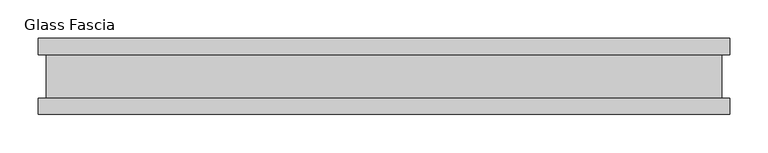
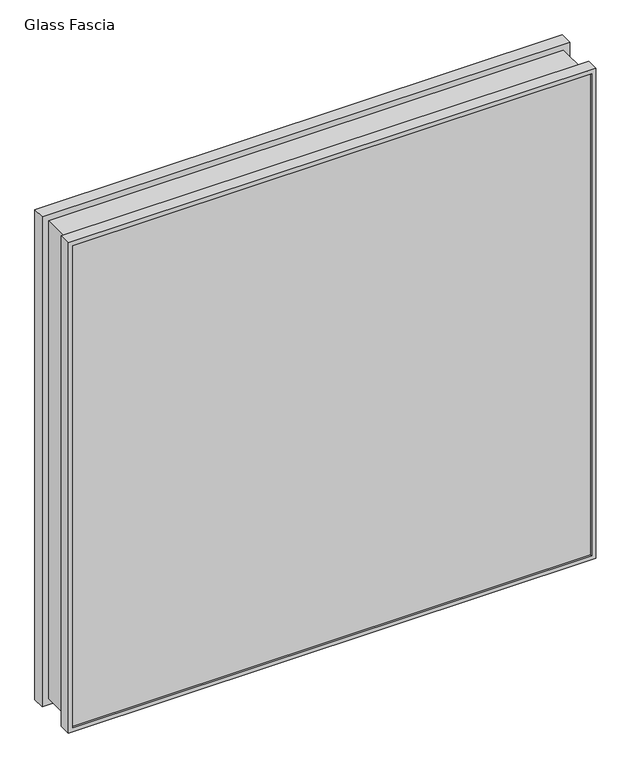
"""IFC4 building model written with IfcOpenShell, lengths in millimetres: proxy geometry, Panel-Fascia-Teknion-Altos-Glass : Glass Fascia."""

import ifcopenshell
import ifcopenshell.guid

model = None  # the IFC model being written
_history = None  # IfcOwnerHistory: only IFC2X3 demands one
_inside = {}  # id of a spatial element -> (the spatial element, [elements in it])
_under = {}  # id of a project, library or spatial element -> (it, [spatial elements below it])
_declared = {}  # id of a project -> (the project, [libraries it declares])
_typed = {}  # id of a type object -> (the type object, [elements of that type])
_made_of = {}  # id of a material, layer set ... -> (it, [elements and type objects made of it])


def new_model(schema):
    """Start an empty IFC model of exactly this schema.

    Asked for "IFC4X3", IfcOpenShell would pick the latest addendum, in which some entities
    have other attributes; the version numbers below select the first issue.
    IFC2X3 requires an IfcOwnerHistory on every rooted entity: one is made here for all.
    """
    global model, _history
    if schema == "IFC4X3":
        model = ifcopenshell.file(schema_version=(4, 3, 0, 0))
    else:
        model = ifcopenshell.file(schema=schema)
    _inside.clear()
    _under.clear()
    _declared.clear()
    _typed.clear()
    _made_of.clear()
    _history = None
    if model.schema == "IFC2X3":
        org = make("IfcOrganization", Name="unknown")
        user = make(
            "IfcPersonAndOrganization",
            ThePerson=make("IfcPerson", FamilyName="unknown"),
            TheOrganization=org,
        )
        app = make(
            "IfcApplication",
            ApplicationDeveloper=org,
            Version="unknown",
            ApplicationFullName="unknown",
            ApplicationIdentifier="unknown",
        )
        _history = make(
            "IfcOwnerHistory",
            OwningUser=user,
            OwningApplication=app,
            ChangeAction="ADDED",
            CreationDate=0,
        )
    return model


def make(cls, **values):
    """One entity of the class cls with the attributes given. An attribute that is None is left unset."""
    return model.create_entity(
        cls, **{name: value for name, value in values.items() if value is not None}
    )


def rooted(cls, **values):
    """An entity with a GlobalId (a new one), such as an element, a storey or a relation."""
    return make(cls, GlobalId=ifcopenshell.guid.new(), OwnerHistory=_history, **values)


def si_unit(unit_type, name, prefix=None):
    """IfcSIUnit, for example si_unit("LENGTHUNIT", "METRE", prefix="MILLI")."""
    return make("IfcSIUnit", UnitType=unit_type, Prefix=prefix, Name=name)


def assignment(units):
    """IfcUnitAssignment: the units of a project."""
    return None if units is None else make("IfcUnitAssignment", Units=units)


def point(xyz):
    """IfcCartesianPoint."""
    return None if xyz is None else make("IfcCartesianPoint", Coordinates=xyz)


def direction(xyz):
    """IfcDirection."""
    return None if xyz is None else make("IfcDirection", DirectionRatios=xyz)


def frame(location, z_axis=None, x_axis=None):
    """IfcAxis2Placement3D, a coordinate frame: its origin and axes. An axis left out is left unset."""
    return make(
        "IfcAxis2Placement3D",
        Location=point(location),
        Axis=direction(z_axis),
        RefDirection=direction(x_axis),
    )


def origin():
    """The frame at (0, 0, 0) with its axes left unset."""
    return frame((0.0, 0.0, 0.0))


def place(relative_to, where):
    """IfcLocalPlacement: puts the frame where relative to a parent placement (None: the world)."""
    return make(
        "IfcLocalPlacement", PlacementRelTo=relative_to, RelativePlacement=where
    )


def context(
    kind, dimensions, precision=None, world=None, true_north=None, identifier=None
):
    """IfcGeometricRepresentationContext, for example the 3D "Model" context."""
    return make(
        "IfcGeometricRepresentationContext",
        ContextIdentifier=identifier,
        ContextType=kind,
        CoordinateSpaceDimension=dimensions,
        Precision=precision,
        WorldCoordinateSystem=world,
        TrueNorth=true_north,
    )


def project(units=None, contexts=None):
    """IfcProject with its units and contexts."""
    return rooted(
        "IfcProject",
        Name="project",
        RepresentationContexts=contexts,
        UnitsInContext=assignment(units),
    )


def spatial(cls, under=None, at=None, **own):
    """A site, building, storey or space (cls), placed at a placement, below another one or the project."""
    s = rooted(cls, ObjectPlacement=at, **own)
    if under is not None:
        _under.setdefault(under.id(), (under, []))[1].append(s)
    return s


def polyline(points):
    """IfcPolyline through the points."""
    return make("IfcPolyline", Points=[point(p) for p in points])


def ellipse_curve(where, semi_axis1, semi_axis2):
    """IfcEllipse in the frame where."""
    return make(
        "IfcEllipse", Position=where, SemiAxis1=semi_axis1, SemiAxis2=semi_axis2
    )


def outline(outer, holes=None, kind="AREA"):
    """IfcArbitraryClosedProfileDef: a profile drawn as a closed curve; with holes, ...WithVoids."""
    if holes is None:
        return make("IfcArbitraryClosedProfileDef", ProfileType=kind, OuterCurve=outer)
    return make(
        "IfcArbitraryProfileDefWithVoids",
        ProfileType=kind,
        OuterCurve=outer,
        InnerCurves=holes,
    )


def extrude(swept, where, along, depth):
    """IfcExtrudedAreaSolid: the profile swept, set in the frame where, extruded along a direction by depth."""
    return make(
        "IfcExtrudedAreaSolid",
        SweptArea=swept,
        Position=where,
        ExtrudedDirection=direction(along),
        Depth=depth,
    )


def shape(context_of_items, identifier, shape_type, items):
    """IfcShapeRepresentation: the items that make up one representation, for example the "Body"."""
    return make(
        "IfcShapeRepresentation",
        ContextOfItems=context_of_items,
        RepresentationIdentifier=identifier,
        RepresentationType=shape_type,
        Items=items,
    )


def source(mapping_origin, context_of_items, identifier, shape_type, items):
    """IfcRepresentationMap: a shape defined once, which mapped items show again and again."""
    return make(
        "IfcRepresentationMap",
        MappingOrigin=mapping_origin,
        MappedRepresentation=shape(context_of_items, identifier, shape_type, items),
    )


def transform(
    local_origin,
    x_axis=None,
    y_axis=None,
    z_axis=None,
    scale=None,
    scale2=None,
    scale3=None,
    uniform=True,
):
    """IfcCartesianTransformationOperator3D, or its non-uniform kind. x_axis, y_axis, z_axis: its Axis1, 2, 3."""
    if uniform:
        return make(
            "IfcCartesianTransformationOperator3D",
            Axis1=direction(x_axis),
            Axis2=direction(y_axis),
            LocalOrigin=point(local_origin),
            Scale=scale,
            Axis3=direction(z_axis),
        )
    return make(
        "IfcCartesianTransformationOperator3DnonUniform",
        Axis1=direction(x_axis),
        Axis2=direction(y_axis),
        LocalOrigin=point(local_origin),
        Scale=scale,
        Axis3=direction(z_axis),
        Scale2=scale2,
        Scale3=scale3,
    )


def mapped(mapping_source, mapping_target):
    """IfcMappedItem: shows the shape of a source again, moved by a transform."""
    return make(
        "IfcMappedItem", MappingSource=mapping_source, MappingTarget=mapping_target
    )


def made_of(thing, what):
    """Note that an element or type object is made of a material, layer set ...; save() writes the relation."""
    if what is not None:
        _made_of.setdefault(what.id(), (what, []))[1].append(thing)
    return thing


def element(
    cls,
    number,
    at=None,
    inside=None,
    cuts=None,
    type_object=None,
    material=None,
    context=None,
    identifier="Body",
    shape_type=None,
    held_by="IfcProductDefinitionShape",
    body=None,
    shapes=None,
    **own,
):
    """One element of the class cls, such as IfcWall. Its Tag is "e" and its number.

    at: its placement. inside: the storey or other place that contains it. cuts: it is an
    opening in that element (IfcRelVoidsElement). A single representation is given by context,
    identifier, shape_type and body (its items); several are given by shapes. held_by: the class
    of the entity that holds the representations. save() writes the other relations.
    """
    e = rooted(cls, Tag="e%d" % number, ObjectPlacement=at, **own)
    if body is not None:
        shapes = [shape(context, identifier, shape_type, body)]
    if shapes is not None:
        e.Representation = make(held_by, Representations=shapes)
    if inside is not None:
        _inside.setdefault(inside.id(), (inside, []))[1].append(e)
    if cuts is not None:
        rooted(
            "IfcRelVoidsElement", RelatingBuildingElement=cuts, RelatedOpeningElement=e
        )
    if type_object is not None:
        _typed.setdefault(type_object.id(), (type_object, []))[1].append(e)
    return made_of(e, material)


def aggregate(whole, parts):
    """IfcRelAggregates: a whole, such as a stair, and the parts it consists of."""
    return rooted("IfcRelAggregates", RelatingObject=whole, RelatedObjects=parts)


def save(model, path):
    """Write the relations noted so far, then the file.

    IfcRelAggregates (storeys below a building ...), IfcRelContainedInSpatialStructure (elements
    in a storey), IfcRelDefinesByType, IfcRelAssociatesMaterial and IfcRelDeclares: one each for
    every whole, place, type object, material and project.
    """
    for whole, parts in _under.values():
        aggregate(whole, parts)
    for where, things in _inside.values():
        rooted(
            "IfcRelContainedInSpatialStructure",
            RelatedElements=things,
            RelatingStructure=where,
        )
    for kind, things in _typed.values():
        rooted("IfcRelDefinesByType", RelatedObjects=things, RelatingType=kind)
    for what, things in _made_of.values():
        rooted("IfcRelAssociatesMaterial", RelatedObjects=things, RelatingMaterial=what)
    for by, libraries in _declared.values():
        rooted("IfcRelDeclares", RelatingContext=by, RelatedDefinitions=libraries)
    model.write(path)


def plane_surface(at):
    """IfcPlane: the flat surface through the origin of the frame at, square to its z axis."""
    return make("IfcPlane", Position=at)


def cylinder_surface(at, radius):
    """IfcCylindricalSurface: all points at the distance radius from the z axis of the frame at."""
    return make("IfcCylindricalSurface", Position=at, Radius=radius)


def advanced_brep(points, edges, surfaces, faces):
    """IfcAdvancedBrep: a solid bounded by faces that lie on surfaces and meet in shared edges.

    An edge is (start, end): straight between two places in points (the first is 0);
    or (start, end, curve); or (start, end, curve, False) where it runs against its curve.
    A face is (place in surfaces, loops), or (place, loops, False) where it looks against
    its surface's normal. A loop lists edges by number (the first is 1), with a minus sign
    where the edge is run from its end to its start. The first loop is the outer one.
    """
    corners = [point(p) for p in points]
    vertices = [make("IfcVertexPoint", VertexGeometry=c) for c in corners]
    made = []
    for start, end, *more in edges:
        made.append(
            make(
                "IfcEdgeCurve",
                EdgeStart=vertices[start],
                EdgeEnd=vertices[end],
                EdgeGeometry=more[0] if more else make("IfcPolyline", Points=[corners[start], corners[end]]),
                SameSense=more[1] if len(more) > 1 else True,
            )
        )
    hull = []
    for where, loops, *sense in faces:
        bounds = []
        for j, loop in enumerate(loops):
            ring = [make("IfcOrientedEdge", EdgeElement=made[abs(k) - 1], Orientation=k > 0) for k in loop]
            bounds.append(
                make(
                    "IfcFaceOuterBound" if j == 0 else "IfcFaceBound",
                    Bound=make("IfcEdgeLoop", EdgeList=ring),
                    Orientation=True,
                )
            )
        hull.append(make("IfcAdvancedFace", Bounds=bounds, FaceSurface=surfaces[where], SameSense=sense[0] if sense else True))
    return make("IfcAdvancedBrep", Outer=make("IfcClosedShell", CfsFaces=hull))


def glass_fascia_467b1f08(model_context):
    return source(origin(), model_context, "Body", "SolidModel", [
        advanced_brep(
        [(454.0619976, 50.0558594, 895.35), (454.0619976, 28.2698798, 895.35), (454.0619976, 28.2698798, 3.175), (454.0619976, 50.0558594, 3.175), (446.6267898, 47.1322551, 887.9147922), (446.6267898, 50.0558594, 887.9147922), (446.6267898, 50.0558594, 10.6102078), (446.6267898, 47.1322551, 10.6102078), (451.9094713, 41.1791301, 893.1974737), (451.9094713, 47.1322551, 893.1974737), (451.9094713, 47.1322551, 5.3275263), (451.9094713, 41.1791301, 5.3275263), (446.1045822, -40.9277344, 887.3925845), (446.1045822, 41.1791301, 887.3925845), (446.1045822, 41.1791301, 11.1324155), (446.1045822, -40.9277344, 11.1324155), (451.9094713, -46.8808594, 893.1974737), (451.9094713, -40.9277344, 893.1974737), (451.9094713, -40.9277344, 5.3275263), (451.9094713, -46.8808594, 5.3275263), (446.6267898, -50.0558594, 887.9147922), (446.6267898, -46.8808594, 887.9147922), (446.6267898, -46.8808594, 10.6102078), (446.6267898, -50.0558594, 10.6102078), (454.0619976, -28.8801202, 895.35), (454.0619976, -50.0558594, 895.35), (454.0619976, -50.0558594, 3.175), (454.0619976, -28.8801202, 3.175), (443.2101563, 28.2698798, 884.4981586), (443.2101563, -28.8801202, 884.4981586), (443.2101563, -28.8801202, 14.0268414), (443.2101563, 28.2698798, 14.0268414), (-454.0619976, 28.2698798, 3.175), (-454.0619976, 50.0558594, 3.175), (-446.6267898, 50.0558594, 10.6102078), (-446.6267898, 47.1322551, 10.6102078), (-451.9094713, 47.1322551, 5.3275263), (-451.9094713, 41.1791301, 5.3275263), (-446.1045822, 41.1791301, 11.1324155), (-446.1045822, -40.9277344, 11.1324155), (-451.9094713, -40.9277344, 5.3275263), (-451.9094713, -46.8808594, 5.3275263), (-446.6267898, -46.8808594, 10.6102078), (-446.6267898, -50.0558594, 10.6102078), (-454.0619976, -50.0558594, 3.175), (-454.0619976, -28.8801202, 3.175), (-443.2101563, -28.8801202, 14.0268414), (-443.2101563, 28.2698798, 14.0268414), (-454.0619976, 28.2698798, 895.35), (-454.0619976, 50.0558594, 895.35), (-446.6267898, 50.0558594, 887.9147922), (-446.6267898, 47.1322551, 887.9147922), (-451.9094713, 47.1322551, 893.1974737), (-451.9094713, 41.1791301, 893.1974737), (-446.1045822, 41.1791301, 887.3925845), (-446.1045822, -40.9277344, 887.3925845), (-451.9094713, -40.9277344, 893.1974737), (-451.9094713, -46.8808594, 893.1974737), (-446.6267898, -46.8808594, 887.9147922), (-446.6267898, -50.0558594, 887.9147922), (-454.0619976, -50.0558594, 895.35), (-454.0619976, -28.8801202, 895.35), (-443.2101563, -28.8801202, 884.4981586), (-443.2101563, 28.2698798, 884.4981586)],
        [
            (0, 1),
            (1, 2),
            (2, 3),
            (3, 0),
            (4, 5),
            (5, 6),
            (6, 7),
            (7, 4),
            (8, 9),
            (9, 10),
            (10, 11),
            (11, 8),
            (12, 13, ellipse_curve(frame((485.4904245, 0.1256979, 926.7784268), z_axis=(0.7071067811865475, 0.0, -0.7071067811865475), x_axis=(0.7071067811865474, 0.0, 0.7071067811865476)), 80.4565581, 56.8913778)),
            (13, 14),
            (14, 15, ellipse_curve(frame((485.4904245, 0.1256979, -28.2534268), z_axis=(0.7071067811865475, 0.0, 0.7071067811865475), x_axis=(-0.7071067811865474, 0.0, 0.7071067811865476)), 80.4565581, 56.8913778)),
            (15, 12),
            (16, 17),
            (17, 18),
            (18, 19),
            (19, 16),
            (20, 21),
            (21, 22),
            (22, 23),
            (23, 20),
            (24, 25),
            (25, 26),
            (26, 27),
            (27, 24),
            (28, 29),
            (29, 30),
            (30, 31),
            (31, 28),
            (2, 32),
            (32, 33),
            (33, 3),
            (6, 34),
            (34, 35),
            (35, 7),
            (10, 36),
            (36, 37),
            (37, 11),
            (14, 38),
            (38, 39, ellipse_curve(frame((-485.4904245, 0.1256979, -28.2534268), z_axis=(0.7071067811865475, 0.0, -0.7071067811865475), x_axis=(0.7071067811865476, 0.0, 0.7071067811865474)), 80.4565581, 56.8913778)),
            (39, 15),
            (18, 40),
            (40, 41),
            (41, 19),
            (22, 42),
            (42, 43),
            (43, 23),
            (26, 44),
            (44, 45),
            (45, 27),
            (30, 46),
            (46, 47),
            (47, 31),
            (32, 48),
            (48, 49),
            (49, 33),
            (34, 50),
            (50, 51),
            (51, 35),
            (36, 52),
            (52, 53),
            (53, 37),
            (38, 54),
            (54, 55, ellipse_curve(frame((-485.4904245, 0.1256979, 926.7784268), z_axis=(-0.7071067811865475, 0.0, -0.7071067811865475), x_axis=(0.7071067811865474, 0.0, -0.7071067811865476)), 80.4565581, 56.8913778)),
            (55, 39),
            (40, 56),
            (56, 57),
            (57, 41),
            (42, 58),
            (58, 59),
            (59, 43),
            (44, 60),
            (60, 61),
            (61, 45),
            (46, 62),
            (62, 63),
            (63, 47),
            (48, 1),
            (0, 49),
            (5, 50),
            (4, 51),
            (9, 52),
            (8, 53),
            (13, 54),
            (12, 55),
            (17, 56),
            (16, 57),
            (21, 58),
            (20, 59),
            (25, 60),
            (24, 61),
            (29, 62),
            (28, 63),
        ],
        [
            plane_surface(frame((454.0619976, 28.2698798, 895.35), z_axis=(1.0, 0.0, 0.0), x_axis=(0.0, 0.0, -1.0))),
            plane_surface(frame((446.6267898, 50.0558594, 887.9147922), z_axis=(-1.0, 0.0, 0.0), x_axis=(0.0, 0.0, -1.0))),
            plane_surface(frame((451.9094713, 47.1322551, 893.1974737), z_axis=(-1.0, 0.0, 0.0), x_axis=(0.0, 0.0, -1.0))),
            cylinder_surface(frame((485.4904245, 0.1256979, 895.35), z_axis=(0.0, 0.0, 1.0), x_axis=(1.0, 0.0, 0.0)), 56.8913778),
            plane_surface(frame((451.9094713, -40.9277344, 893.1974737), z_axis=(-1.0, 0.0, 0.0), x_axis=(0.0, 0.0, -1.0))),
            plane_surface(frame((446.6267898, -46.8808594, 887.9147922), z_axis=(-1.0, 0.0, 0.0), x_axis=(0.0, 0.0, -1.0))),
            plane_surface(frame((454.0619976, -50.0558594, 895.35), z_axis=(1.0, 0.0, 0.0), x_axis=(0.0, 0.0, -1.0))),
            plane_surface(frame((443.2101563, -28.8801202, 884.4981586), z_axis=(1.0, 0.0, 0.0), x_axis=(0.0, 0.0, -1.0))),
            plane_surface(frame((454.0619976, 28.2698798, 3.175), z_axis=(0.0, 0.0, -1.0), x_axis=(-1.0, 0.0, 0.0))),
            plane_surface(frame((446.6267898, 50.0558594, 10.6102078), z_axis=(0.0, 0.0, 1.0), x_axis=(-1.0, 0.0, 0.0))),
            plane_surface(frame((451.9094713, 47.1322551, 5.3275263), z_axis=(0.0, 0.0, 1.0), x_axis=(-1.0, 0.0, 0.0))),
            cylinder_surface(frame((454.0619976, 0.1256979, -28.2534268), z_axis=(1.0, 0.0, 0.0), x_axis=(0.0, 0.0, -1.0)), 56.8913778),
            plane_surface(frame((451.9094713, -40.9277344, 5.3275263), z_axis=(0.0, 0.0, 1.0), x_axis=(-1.0, 0.0, 0.0))),
            plane_surface(frame((446.6267898, -46.8808594, 10.6102078), z_axis=(0.0, 0.0, 1.0), x_axis=(-1.0, 0.0, 0.0))),
            plane_surface(frame((454.0619976, -50.0558594, 3.175), z_axis=(0.0, 0.0, -1.0), x_axis=(-1.0, 0.0, 0.0))),
            plane_surface(frame((443.2101563, -28.8801202, 14.0268414), z_axis=(0.0, 0.0, -1.0), x_axis=(-1.0, 0.0, 0.0))),
            plane_surface(frame((-454.0619976, 28.2698798, 3.175), z_axis=(-1.0, 0.0, 0.0), x_axis=(0.0, 0.0, 1.0))),
            plane_surface(frame((-446.6267898, 50.0558594, 10.6102078), z_axis=(1.0, 0.0, 0.0), x_axis=(0.0, 0.0, 1.0))),
            plane_surface(frame((-451.9094713, 47.1322551, 5.3275263), z_axis=(1.0, 0.0, 0.0), x_axis=(0.0, 0.0, 1.0))),
            cylinder_surface(frame((-485.4904245, 0.1256979, 3.175), z_axis=(0.0, 0.0, -1.0), x_axis=(-1.0, 0.0, 0.0)), 56.8913778),
            plane_surface(frame((-451.9094713, -40.9277344, 5.3275263), z_axis=(1.0, 0.0, 0.0), x_axis=(0.0, 0.0, 1.0))),
            plane_surface(frame((-446.6267898, -46.8808594, 10.6102078), z_axis=(1.0, 0.0, 0.0), x_axis=(0.0, 0.0, 1.0))),
            plane_surface(frame((-454.0619976, -50.0558594, 3.175), z_axis=(-1.0, 0.0, 0.0), x_axis=(0.0, 0.0, 1.0))),
            plane_surface(frame((-443.2101563, -28.8801202, 14.0268414), z_axis=(-1.0, 0.0, 0.0), x_axis=(0.0, 0.0, 1.0))),
            plane_surface(frame((-454.0619976, 28.2698798, 895.35), z_axis=(0.0, 0.0, 1.0), x_axis=(1.0, 0.0, 0.0))),
            plane_surface(frame((-454.0619976, 50.0558594, 895.35), z_axis=(0.0, 1.0, 0.0), x_axis=(1.0, 0.0, 0.0))),
            plane_surface(frame((-446.6267898, 50.0558594, 887.9147922), z_axis=(0.0, 0.0, -1.0), x_axis=(1.0, 0.0, 0.0))),
            plane_surface(frame((-446.6267898, 47.1322551, 887.9147922), z_axis=(0.0, -1.0, 0.0), x_axis=(1.0, 0.0, 0.0))),
            plane_surface(frame((-451.9094713, 47.1322551, 893.1974737), z_axis=(0.0, 0.0, -1.0), x_axis=(1.0, 0.0, 0.0))),
            plane_surface(frame((-451.9094713, 41.1791301, 893.1974737), z_axis=(0.0, 1.0, 0.0), x_axis=(1.0, 0.0, 0.0))),
            cylinder_surface(frame((-454.0619976, 0.1256979, 926.7784268), z_axis=(-1.0, 0.0, 0.0), x_axis=(0.0, 0.0, 1.0)), 56.8913778),
            plane_surface(frame((-446.1045822, -40.9277344, 887.3925845), z_axis=(0.0, -1.0, 0.0), x_axis=(1.0, 0.0, 0.0))),
            plane_surface(frame((-451.9094713, -40.9277344, 893.1974737), z_axis=(0.0, 0.0, -1.0), x_axis=(1.0, 0.0, 0.0))),
            plane_surface(frame((-451.9094713, -46.8808594, 893.1974737), z_axis=(0.0, 1.0, 0.0), x_axis=(1.0, 0.0, 0.0))),
            plane_surface(frame((-446.6267898, -46.8808594, 887.9147922), z_axis=(0.0, 0.0, -1.0), x_axis=(1.0, 0.0, 0.0))),
            plane_surface(frame((-446.6267898, -50.0558594, 887.9147922), z_axis=(0.0, -1.0, 0.0), x_axis=(1.0, 0.0, 0.0))),
            plane_surface(frame((-454.0619976, -50.0558594, 895.35), z_axis=(0.0, 0.0, 1.0), x_axis=(1.0, 0.0, 0.0))),
            plane_surface(frame((-454.0619976, -28.8801202, 895.35), z_axis=(0.0, 1.0, 0.0), x_axis=(1.0, 0.0, 0.0))),
            plane_surface(frame((-443.2101563, -28.8801202, 884.4981586), z_axis=(0.0, 0.0, 1.0), x_axis=(1.0, 0.0, 0.0))),
            plane_surface(frame((-443.2101563, 28.2698798, 884.4981586), z_axis=(0.0, -1.0, 0.0), x_axis=(1.0, 0.0, 0.0))),
        ],
        [
            (0, [[1, 2, 3, 4]]),
            (1, [[5, 6, 7, 8]]),
            (2, [[9, 10, 11, 12]]),
            (3, [[13, 14, 15, 16]]),
            (4, [[17, 18, 19, 20]]),
            (5, [[21, 22, 23, 24]]),
            (6, [[25, 26, 27, 28]]),
            (7, [[29, 30, 31, 32]]),
            (8, [[-3, 33, 34, 35]]),
            (9, [[-7, 36, 37, 38]]),
            (10, [[-11, 39, 40, 41]]),
            (11, [[-15, 42, 43, 44]]),
            (12, [[-19, 45, 46, 47]]),
            (13, [[-23, 48, 49, 50]]),
            (14, [[-27, 51, 52, 53]]),
            (15, [[-31, 54, 55, 56]]),
            (16, [[-34, 57, 58, 59]]),
            (17, [[-37, 60, 61, 62]]),
            (18, [[-40, 63, 64, 65]]),
            (19, [[-43, 66, 67, 68]]),
            (20, [[-46, 69, 70, 71]]),
            (21, [[-49, 72, 73, 74]]),
            (22, [[-52, 75, 76, 77]]),
            (23, [[-55, 78, 79, 80]]),
            (24, [[-58, 81, -1, 82]]),
            (25, [[-35, -59, -82, -4], [83, -60, -36, -6]]),
            (26, [[-61, -83, -5, 84]]),
            (27, [[85, -63, -39, -10], [-38, -62, -84, -8]]),
            (28, [[-64, -85, -9, 86]]),
            (29, [[-41, -65, -86, -12], [87, -66, -42, -14]]),
            (30, [[-67, -87, -13, 88]]),
            (31, [[89, -69, -45, -18], [-44, -68, -88, -16]]),
            (32, [[-70, -89, -17, 90]]),
            (33, [[-47, -71, -90, -20], [91, -72, -48, -22]]),
            (34, [[-73, -91, -21, 92]]),
            (35, [[93, -75, -51, -26], [-50, -74, -92, -24]]),
            (36, [[-76, -93, -25, 94]]),
            (37, [[-53, -77, -94, -28], [95, -78, -54, -30]]),
            (38, [[-79, -95, -29, 96]]),
            (39, [[-81, -57, -33, -2], [-56, -80, -96, -32]]),
        ],
    ),
        extrude(outline(polyline([(451.9094713, -40.9277344), (451.9094713, -46.8808594), (-451.9094713, -46.8808594), (-451.9094713, -40.9277344), (451.9094713, -40.9277344)])), frame((0.0, 0.0, 5.3275263), z_axis=(0.0, 0.0, 1.0), x_axis=(1.0, 0.0, 0.0)), (0.0, 0.0, 1.0), 887.375928),
        extrude(outline(polyline([(451.9094713, 41.1791301), (-451.9094713, 41.1791301), (-451.9094713, 47.1322551), (451.9094713, 47.1322551), (451.9094713, 41.1791301)])), frame((0.0, 0.0, 5.3275263), z_axis=(0.0, 0.0, 1.0), x_axis=(1.0, 0.0, 0.0)), (0.0, 0.0, 1.0), 887.375928),
    ])


if __name__ == "__main__":
    model = new_model("IFC4")
    model_context = context("Model", 3, world=origin())
    ifc_project = project(units=[si_unit("LENGTHUNIT", "METRE", prefix="MILLI")], contexts=[model_context])
    site = spatial("IfcSite", under=ifc_project)
    building = spatial("IfcBuilding", under=site)
    placement = place(None, origin())
    glass_fascia_shape = glass_fascia_467b1f08(model_context)
    element("IfcBuildingElementProxy", 1, Name="Panel-Fascia-Teknion-Altos-Glass : Glass Fascia", ObjectType="Panel-Fascia-Teknion-Altos-Glass : Glass Fascia", at=placement, inside=building, context=model_context, shape_type="MappedRepresentation", body=[
        mapped(glass_fascia_shape, transform((0.0, 0.0, 0.0), x_axis=(1.0, 0.0, 0.0), y_axis=(0.0, 1.0, 0.0), z_axis=(0.0, 0.0, 1.0))),
    ])
    save(model, "model.ifc")
